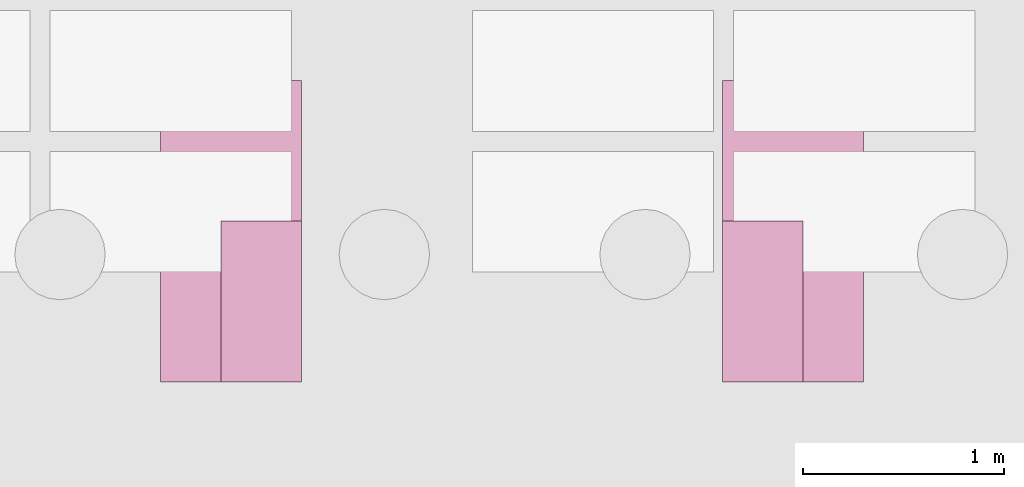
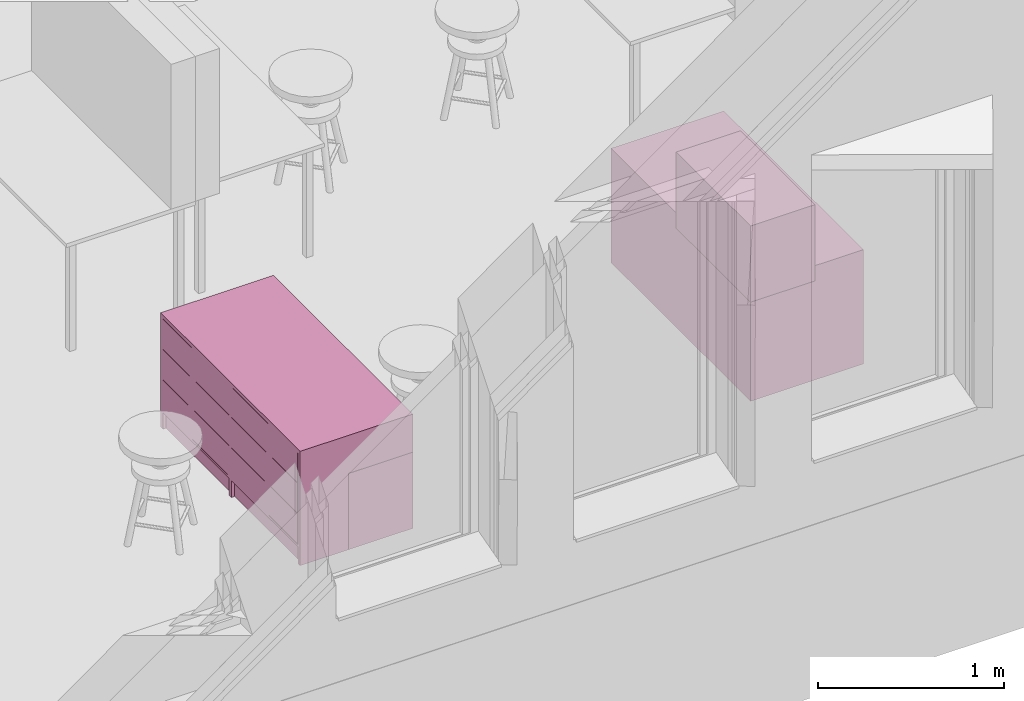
# One storey, part 281 of 301: 4 furnishings.
"""IFC2X3 building model written with IfcOpenShell, lengths in millimetres."""

from ifc_helpers import new_model, entity, si_unit, converted_unit, derived_unit, money_unit, direction, frame, origin_with_axes, place, context, subcontext, project, spatial, faceted_brep, type_object, element, save


model = new_model("IFC2X3")

# Units and contexts
model_context = context("Model", 3, precision=0.01, world=origin_with_axes(), true_north=direction((0.0, 1.0)))
body_context = subcontext(model_context, "Body", "Model", "MODEL_VIEW")
ifc_project = project(units=[si_unit("LENGTHUNIT", "METRE", prefix="MILLI"), si_unit("AREAUNIT", "SQUARE_METRE"), si_unit("VOLUMEUNIT", "CUBIC_METRE"), converted_unit("PLANEANGLEUNIT", "DEGREE", entity("IfcPlaneAngleMeasure", 0.0174532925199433), si_unit("PLANEANGLEUNIT", "RADIAN"), dimensions=[0, 0, 0, 0, 0, 0, 0]), money_unit("EUR"), converted_unit("TIMEUNIT", "Year", entity("IfcTimeMeasure", 31557600.0), si_unit("TIMEUNIT", "SECOND"), dimensions=[0, 0, 1, 0, 0, 0, 0]), si_unit("MASSUNIT", "GRAM", prefix="KILO"), si_unit("THERMODYNAMICTEMPERATUREUNIT", "DEGREE_CELSIUS"), si_unit("LUMINOUSINTENSITYUNIT", "LUMEN"), si_unit("ENERGYUNIT", "JOULE", prefix="MEGA"), derived_unit("THERMALCONDUCTANCEUNIT", [(si_unit("POWERUNIT", "WATT"), 1), (si_unit("LENGTHUNIT", "METRE"), -1), (si_unit("THERMODYNAMICTEMPERATUREUNIT", "KELVIN"), -1)]), derived_unit("SPECIFICHEATCAPACITYUNIT", [(si_unit("ENERGYUNIT", "JOULE"), 1), (si_unit("MASSUNIT", "GRAM", prefix="KILO"), -1), (si_unit("THERMODYNAMICTEMPERATUREUNIT", "KELVIN"), -1)]), derived_unit("MASSDENSITYUNIT", [(si_unit("MASSUNIT", "GRAM", prefix="KILO"), 1), (si_unit("VOLUMEUNIT", "CUBIC_METRE"), -1)])], contexts=[model_context])

# Site, building, storey
site_placement = place(None, frame((0.0, 0.0, 8650.0), z_axis=(0.0, 0.0, 1.0), x_axis=(1.0, 0.0, 0.0)))
site = spatial("IfcSite", under=ifc_project, at=site_placement, Name="43301:001:0844", CompositionType="ELEMENT")
building_placement = place(site_placement, origin_with_axes())
building = spatial("IfcBuilding", under=site, at=building_placement, Name="Kuressaare Ametikooli tuulikute mehaanikute õppekorpus", CompositionType="ELEMENT")
storey_placement = place(building_placement, origin_with_axes())
storey = spatial("IfcBuildingStorey", under=building, at=storey_placement, Name="1.korrus", CompositionType="ELEMENT", Elevation=0.0)

# Furnishings
furniture_type_1 = type_object("IfcFurnitureType", Name="Cube 27", AssemblyPlace="NOTDEFINED")
furnishing_1_placement = place(storey_placement, frame((107844.852344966, 10078.26065269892, 750.0), z_axis=(0.0, 0.0, 1.0), x_axis=(0.0, 1.0, 0.0)))
element("IfcFurnishingElement", 1, at=furnishing_1_placement, inside=storey, type_object=furniture_type_1, Name="x", context=body_context, shape_type="Brep", body=[
    faceted_brep([(800.0, 0.0, 0.0), (0.0, 0.0, 0.0), (0.0, 400.0, 0.0), (800.0, 400.0, 0.0), (800.0, 0.0, 500.0), (0.0, 0.0, 500.0), (0.0, 400.0, 500.0), (800.0, 400.0, 500.0)], [[[0, 1, 2, 3]], [[1, 0, 4, 5]], [[2, 1, 5, 6]], [[3, 2, 6, 7]], [[0, 3, 7, 4]], [[5, 4, 7, 6]]]),
])
furnishing_2_placement = place(storey_placement, frame((104949.8247123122, 10078.26065269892, 0.0), z_axis=(0.0, 0.0, 1.0), x_axis=(0.0, -1.0, 0.0)))
element("IfcFurnishingElement", 2, at=furnishing_2_placement, inside=storey, type_object=furniture_type_1, Name="x", context=body_context, shape_type="Brep", body=[
    faceted_brep([(-800.0, 0.0, 0.0), (-800.0, 400.0, 0.0), (0.0, 400.0, 0.0), (0.0, 0.0, 0.0), (-800.0, 0.0, 500.0), (-800.0, 400.0, 500.0), (0.0, 400.0, 500.0), (0.0, 0.0, 500.0)], [[[0, 1, 2, 3]], [[0, 4, 5, 1]], [[1, 5, 6, 2]], [[2, 6, 7, 3]], [[3, 7, 4, 0]], [[7, 6, 5, 4]]]),
])
furniture_type_2 = type_object("IfcFurnitureType", Name="Chest of Drawers 27", AssemblyPlace="NOTDEFINED")
furnishing_3_placement = place(storey_placement, frame((108144.8523449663, 10078.26065269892, 100.0), z_axis=(0.0, 0.0, 1.0), x_axis=(0.0, 1.0, 0.0)))
element("IfcFurnishingElement", 3, at=furnishing_3_placement, inside=storey, type_object=furniture_type_2, Name="SEH", context=body_context, shape_type="Brep", body=[
    faceted_brep([(25.0, 0.0, 0.0), (0.0, 0.0, 0.0), (0.0, 700.0, 0.0), (25.0, 700.0, 0.0), (25.0, 0.0, 725.0), (0.0, 0.0, 725.0), (0.0, 700.0, 725.0), (25.0, 700.0, 725.0)], [[[0, 1, 2, 3]], [[1, 0, 4, 5]], [[2, 1, 5, 6]], [[3, 2, 6, 7]], [[0, 3, 7, 4]], [[5, 4, 7, 6]]]),
    faceted_brep([(737.5, 20.0, 0.0), (25.0, 20.0, 0.0), (25.0, 45.0, 0.0), (737.5, 45.0, 0.0), (737.5, 20.0, 110.0), (25.0, 20.0, 110.0), (25.0, 45.0, 110.0), (737.5, 45.0, 110.0)], [[[0, 1, 2, 3]], [[1, 0, 4, 5]], [[2, 1, 5, 6]], [[3, 2, 6, 7]], [[0, 3, 7, 4]], [[5, 4, 7, 6]]]),
    faceted_brep([(737.5, 674.9999999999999, 0.0), (25.0, 674.9999999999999, 0.0), (25.0, 700.0, 0.0), (737.5, 700.0, 0.0), (737.5, 674.9999999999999, 110.0), (25.0, 674.9999999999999, 110.0), (25.0, 700.0, 110.0), (737.5, 700.0, 110.0)], [[[0, 1, 2, 3]], [[1, 0, 4, 5]], [[2, 1, 5, 6]], [[3, 2, 6, 7]], [[0, 3, 7, 4]], [[5, 4, 7, 6]]]),
    faceted_brep([(737.5, 0.0, 110.0), (25.0, 0.0, 110.0), (25.0, 700.0, 110.0), (737.5, 700.0, 110.0), (737.5, 0.0, 125.0), (25.0, 0.0, 125.0), (25.0, 700.0, 125.0), (737.5, 700.0, 125.0)], [[[0, 1, 2, 3]], [[1, 0, 4, 5]], [[2, 1, 5, 6]], [[3, 2, 6, 7]], [[0, 3, 7, 4]], [[5, 4, 7, 6]]]),
    faceted_brep([(737.5, 695.0, 125.0), (25.0, 695.0, 125.0), (25.0, 700.0, 125.0), (737.5, 700.0, 125.0), (737.5, 695.0, 725.0), (25.0, 695.0, 725.0), (25.0, 700.0, 725.0), (737.5, 700.0, 725.0)], [[[0, 1, 2, 3]], [[1, 0, 4, 5]], [[2, 1, 5, 6]], [[3, 2, 6, 7]], [[0, 3, 7, 4]], [[5, 4, 7, 6]]]),
    faceted_brep([(736.0, 20.0, 126.5), (26.5, 20.0, 126.5), (26.5, 693.5, 126.5), (736.0, 693.5, 126.5), (736.0, 20.0, 146.5), (26.5, 20.0, 146.5), (26.5, 693.5, 146.5), (736.0, 693.5, 146.5)], [[[0, 1, 2, 3]], [[1, 0, 4, 5]], [[2, 1, 5, 6]], [[3, 2, 6, 7]], [[0, 3, 7, 4]], [[5, 4, 7, 6]]]),
    faceted_brep([(46.5, 20.0, 146.5), (26.5, 20.0, 146.5), (26.5, 693.5, 146.5), (46.5, 693.5, 146.5), (46.5, 20.0, 323.5), (26.5, 20.0, 323.5), (26.5, 693.5, 323.5), (46.5, 693.5, 323.5)], [[[0, 1, 2, 3]], [[1, 0, 4, 5]], [[2, 1, 5, 6]], [[3, 2, 6, 7]], [[0, 3, 7, 4]], [[5, 4, 7, 6]]]),
    faceted_brep([(736.0, 20.0, 146.5), (716.0, 20.0, 146.5), (716.0, 693.5, 146.5), (736.0, 693.5, 146.5), (736.0, 20.0, 323.5), (716.0, 20.0, 323.5), (716.0, 693.5, 323.5), (736.0, 693.5, 323.5)], [[[0, 1, 2, 3]], [[1, 0, 4, 5]], [[2, 1, 5, 6]], [[3, 2, 6, 7]], [[0, 3, 7, 4]], [[5, 4, 7, 6]]]),
    faceted_brep([(716.0, 673.5, 146.5), (46.5, 673.5, 146.5), (46.5, 693.5, 146.5), (716.0, 693.5, 146.5), (716.0, 673.5, 323.5), (46.5, 673.5, 323.5), (46.5, 693.5, 323.5), (716.0, 693.5, 323.5)], [[[0, 1, 2, 3]], [[1, 0, 4, 5]], [[2, 1, 5, 6]], [[3, 2, 6, 7]], [[0, 3, 7, 4]], [[5, 4, 7, 6]]]),
    faceted_brep([(26.5, 20.0, 126.5), (736.0, 20.0, 126.5), (736.0, 0.0, 126.5), (26.5, 0.0, 126.5), (26.5, 20.00000000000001, 323.5), (736.0, 20.00000000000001, 323.5), (736.0, 0.0, 323.5), (26.5, 0.0, 323.5)], [[[0, 1, 2, 3]], [[0, 4, 5, 1]], [[1, 5, 6, 2]], [[3, 2, 6, 7]], [[4, 0, 3, 7]], [[5, 4, 7, 6]]]),
    faceted_brep([(736.0, 20.0, 326.4999999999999), (26.5, 20.0, 326.4999999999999), (26.5, 693.5, 326.4999999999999), (736.0, 693.5, 326.4999999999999), (736.0, 20.0, 346.5), (26.5, 20.0, 346.5), (26.5, 693.5, 346.5), (736.0, 693.5, 346.5)], [[[0, 1, 2, 3]], [[1, 0, 4, 5]], [[2, 1, 5, 6]], [[3, 2, 6, 7]], [[0, 3, 7, 4]], [[5, 4, 7, 6]]]),
    faceted_brep([(46.5, 20.0, 346.5), (26.5, 20.0, 346.5), (26.5, 693.5, 346.5), (46.5, 693.5, 346.5), (46.5, 20.0, 523.5), (26.5, 20.0, 523.5), (26.5, 693.5, 523.5), (46.5, 693.5, 523.5)], [[[0, 1, 2, 3]], [[1, 0, 4, 5]], [[2, 1, 5, 6]], [[3, 2, 6, 7]], [[0, 3, 7, 4]], [[5, 4, 7, 6]]]),
    faceted_brep([(736.0, 20.0, 346.5), (716.0, 20.0, 346.5), (716.0, 693.5, 346.5), (736.0, 693.5, 346.5), (736.0, 20.0, 523.5), (716.0, 20.0, 523.5), (716.0, 693.5, 523.5), (736.0, 693.5, 523.5)], [[[0, 1, 2, 3]], [[1, 0, 4, 5]], [[2, 1, 5, 6]], [[3, 2, 6, 7]], [[0, 3, 7, 4]], [[5, 4, 7, 6]]]),
    faceted_brep([(716.0, 673.5, 346.5), (46.5, 673.5, 346.5), (46.5, 693.5, 346.5), (716.0, 693.5, 346.5), (716.0, 673.5, 523.5), (46.5, 673.5, 523.5), (46.5, 693.5, 523.5), (716.0, 693.5, 523.5)], [[[0, 1, 2, 3]], [[1, 0, 4, 5]], [[2, 1, 5, 6]], [[3, 2, 6, 7]], [[0, 3, 7, 4]], [[5, 4, 7, 6]]]),
    faceted_brep([(26.5, 20.0, 326.5), (736.0, 20.0, 326.5), (736.0, 0.0, 326.5), (26.5, 0.0, 326.5), (26.5, 20.00000000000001, 523.5), (736.0, 20.00000000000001, 523.5), (736.0, 0.0, 523.5), (26.5, 0.0, 523.5)], [[[0, 1, 2, 3]], [[0, 4, 5, 1]], [[1, 5, 6, 2]], [[3, 2, 6, 7]], [[4, 0, 3, 7]], [[5, 4, 7, 6]]]),
    faceted_brep([(736.0, 20.0, 526.4999999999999), (26.5, 20.0, 526.4999999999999), (26.5, 693.5, 526.4999999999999), (736.0, 693.5, 526.4999999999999), (736.0, 20.0, 546.4999999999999), (26.5, 20.0, 546.4999999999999), (26.5, 693.5, 546.4999999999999), (736.0, 693.5, 546.4999999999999)], [[[0, 1, 2, 3]], [[1, 0, 4, 5]], [[2, 1, 5, 6]], [[3, 2, 6, 7]], [[0, 3, 7, 4]], [[5, 4, 7, 6]]]),
    faceted_brep([(46.5, 20.0, 546.4999999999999), (26.5, 20.0, 546.4999999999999), (26.5, 693.5, 546.4999999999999), (46.5, 693.5, 546.4999999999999), (46.5, 20.0, 723.4999999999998), (26.5, 20.0, 723.4999999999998), (26.5, 693.5, 723.4999999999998), (46.5, 693.5, 723.4999999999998)], [[[0, 1, 2, 3]], [[1, 0, 4, 5]], [[2, 1, 5, 6]], [[3, 2, 6, 7]], [[0, 3, 7, 4]], [[5, 4, 7, 6]]]),
    faceted_brep([(736.0, 20.0, 546.4999999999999), (716.0, 20.0, 546.4999999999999), (716.0, 693.5, 546.4999999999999), (736.0, 693.5, 546.4999999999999), (736.0, 20.0, 723.4999999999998), (716.0, 20.0, 723.4999999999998), (716.0, 693.5, 723.4999999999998), (736.0, 693.5, 723.4999999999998)], [[[0, 1, 2, 3]], [[1, 0, 4, 5]], [[2, 1, 5, 6]], [[3, 2, 6, 7]], [[0, 3, 7, 4]], [[5, 4, 7, 6]]]),
    faceted_brep([(716.0, 673.5, 546.5), (46.5, 673.5, 546.5), (46.5, 693.5, 546.5), (716.0, 693.5, 546.5), (716.0, 673.5, 723.5), (46.5, 673.5, 723.5), (46.5, 693.5, 723.5), (716.0, 693.5, 723.5)], [[[0, 1, 2, 3]], [[1, 0, 4, 5]], [[2, 1, 5, 6]], [[3, 2, 6, 7]], [[0, 3, 7, 4]], [[5, 4, 7, 6]]]),
    faceted_brep([(26.5, 20.0, 526.5), (736.0, 20.0, 526.5), (736.0, 0.0, 526.5), (26.5, 0.0, 526.5), (26.5, 20.00000000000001, 723.4999999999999), (736.0, 20.00000000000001, 723.4999999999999), (736.0, 0.0, 723.4999999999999), (26.5, 0.0, 723.4999999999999)], [[[0, 1, 2, 3]], [[0, 4, 5, 1]], [[1, 5, 6, 2]], [[3, 2, 6, 7]], [[4, 0, 3, 7]], [[5, 4, 7, 6]]]),
    faceted_brep([(1475.0, 0.0, 0.0), (1475.0, 700.0, 0.0), (1500.0, 700.0, 0.0), (1500.0, 0.0, 0.0), (1475.0, 0.0, 725.0), (1475.0, 700.0, 725.0), (1500.0, 700.0, 725.0), (1500.0, 0.0, 725.0)], [[[0, 1, 2, 3]], [[0, 4, 5, 1]], [[1, 5, 6, 2]], [[2, 6, 7, 3]], [[3, 7, 4, 0]], [[7, 6, 5, 4]]]),
    faceted_brep([(762.5000000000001, 20.0, 0.0), (762.5000000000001, 45.0, 0.0), (1475.0, 45.0, 0.0), (1475.0, 20.0, 0.0), (762.5000000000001, 20.0, 110.0), (762.5000000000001, 45.0, 110.0), (1475.0, 45.0, 110.0), (1475.0, 20.0, 110.0)], [[[0, 1, 2, 3]], [[0, 4, 5, 1]], [[1, 5, 6, 2]], [[2, 6, 7, 3]], [[3, 7, 4, 0]], [[7, 6, 5, 4]]]),
    faceted_brep([(762.5000000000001, 674.9999999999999, 0.0), (762.5000000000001, 700.0, 0.0), (1475.0, 700.0, 0.0), (1475.0, 674.9999999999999, 0.0), (762.5000000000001, 674.9999999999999, 110.0), (762.5000000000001, 700.0, 110.0), (1475.0, 700.0, 110.0), (1475.0, 674.9999999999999, 110.0)], [[[0, 1, 2, 3]], [[0, 4, 5, 1]], [[1, 5, 6, 2]], [[2, 6, 7, 3]], [[3, 7, 4, 0]], [[7, 6, 5, 4]]]),
    faceted_brep([(762.5000000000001, 0.0, 110.0), (762.5000000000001, 700.0, 110.0), (1475.0, 700.0, 110.0), (1475.0, 0.0, 110.0), (762.5000000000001, 0.0, 125.0), (762.5000000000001, 700.0, 125.0), (1475.0, 700.0, 125.0), (1475.0, 0.0, 125.0)], [[[0, 1, 2, 3]], [[0, 4, 5, 1]], [[1, 5, 6, 2]], [[2, 6, 7, 3]], [[3, 7, 4, 0]], [[7, 6, 5, 4]]]),
    faceted_brep([(762.5000000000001, 695.0, 125.0), (762.5000000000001, 700.0, 125.0), (1475.0, 700.0, 125.0), (1475.0, 695.0, 125.0), (762.5000000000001, 695.0, 725.0), (762.5000000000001, 700.0, 725.0), (1475.0, 700.0, 725.0), (1475.0, 695.0, 725.0)], [[[0, 1, 2, 3]], [[0, 4, 5, 1]], [[1, 5, 6, 2]], [[2, 6, 7, 3]], [[3, 7, 4, 0]], [[7, 6, 5, 4]]]),
    faceted_brep([(737.4999999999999, 0.0, 0.0), (737.4999999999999, 700.0, 0.0), (762.5, 700.0, 0.0), (762.5, 0.0, 0.0), (737.4999999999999, 0.0, 725.0), (737.4999999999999, 700.0, 725.0), (762.5, 700.0, 725.0), (762.5, 0.0, 725.0)], [[[0, 1, 2, 3]], [[0, 4, 5, 1]], [[1, 5, 6, 2]], [[2, 6, 7, 3]], [[3, 7, 4, 0]], [[7, 6, 5, 4]]]),
    faceted_brep([(764.0, 20.0, 126.5), (764.0, 693.5, 126.5), (1473.5, 693.5, 126.5), (1473.5, 20.0, 126.5), (764.0, 20.0, 146.5), (764.0, 693.5, 146.5), (1473.5, 693.5, 146.5), (1473.5, 20.0, 146.5)], [[[0, 1, 2, 3]], [[0, 4, 5, 1]], [[1, 5, 6, 2]], [[2, 6, 7, 3]], [[3, 7, 4, 0]], [[7, 6, 5, 4]]]),
    faceted_brep([(1453.5, 20.0, 146.5), (1453.5, 693.5, 146.5), (1473.5, 693.5, 146.5), (1473.5, 20.0, 146.5), (1453.5, 20.0, 323.5), (1453.5, 693.5, 323.5), (1473.5, 693.5, 323.5), (1473.5, 20.0, 323.5)], [[[0, 1, 2, 3]], [[0, 4, 5, 1]], [[1, 5, 6, 2]], [[2, 6, 7, 3]], [[3, 7, 4, 0]], [[7, 6, 5, 4]]]),
    faceted_brep([(764.0, 20.0, 146.5), (764.0, 693.5, 146.5), (784.0, 693.5, 146.5), (784.0, 20.0, 146.5), (764.0, 20.0, 323.5), (764.0, 693.5, 323.5), (784.0, 693.5, 323.5), (784.0, 20.0, 323.5)], [[[0, 1, 2, 3]], [[0, 4, 5, 1]], [[1, 5, 6, 2]], [[2, 6, 7, 3]], [[3, 7, 4, 0]], [[7, 6, 5, 4]]]),
    faceted_brep([(784.0, 673.5, 146.5), (784.0, 693.5, 146.5), (1453.5, 693.5, 146.5), (1453.5, 673.5, 146.5), (784.0, 673.5, 323.5), (784.0, 693.5, 323.5), (1453.5, 693.5, 323.5), (1453.5, 673.5, 323.5)], [[[0, 1, 2, 3]], [[0, 4, 5, 1]], [[1, 5, 6, 2]], [[2, 6, 7, 3]], [[3, 7, 4, 0]], [[7, 6, 5, 4]]]),
    faceted_brep([(1473.5, 20.0, 126.5), (1473.5, 0.0, 126.5), (764.0, 0.0, 126.5), (764.0, 20.0, 126.5), (1473.5, 20.00000000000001, 323.5), (1473.5, 0.0, 323.5), (764.0, 0.0, 323.5), (764.0, 20.00000000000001, 323.5)], [[[0, 1, 2, 3]], [[4, 5, 1, 0]], [[1, 5, 6, 2]], [[3, 2, 6, 7]], [[0, 3, 7, 4]], [[7, 6, 5, 4]]]),
    faceted_brep([(764.0, 20.0, 326.4999999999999), (764.0, 693.5, 326.4999999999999), (1473.5, 693.5, 326.4999999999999), (1473.5, 20.0, 326.4999999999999), (764.0, 20.0, 346.5), (764.0, 693.5, 346.5), (1473.5, 693.5, 346.5), (1473.5, 20.0, 346.5)], [[[0, 1, 2, 3]], [[0, 4, 5, 1]], [[1, 5, 6, 2]], [[2, 6, 7, 3]], [[3, 7, 4, 0]], [[7, 6, 5, 4]]]),
    faceted_brep([(1453.5, 20.0, 346.5), (1453.5, 693.5, 346.5), (1473.5, 693.5, 346.5), (1473.5, 20.0, 346.5), (1453.5, 20.0, 523.5), (1453.5, 693.5, 523.5), (1473.5, 693.5, 523.5), (1473.5, 20.0, 523.5)], [[[0, 1, 2, 3]], [[0, 4, 5, 1]], [[1, 5, 6, 2]], [[2, 6, 7, 3]], [[3, 7, 4, 0]], [[7, 6, 5, 4]]]),
    faceted_brep([(764.0, 20.0, 346.5), (764.0, 693.5, 346.5), (784.0, 693.5, 346.5), (784.0, 20.0, 346.5), (764.0, 20.0, 523.5), (764.0, 693.5, 523.5), (784.0, 693.5, 523.5), (784.0, 20.0, 523.5)], [[[0, 1, 2, 3]], [[0, 4, 5, 1]], [[1, 5, 6, 2]], [[2, 6, 7, 3]], [[3, 7, 4, 0]], [[7, 6, 5, 4]]]),
    faceted_brep([(784.0, 673.5, 346.5), (784.0, 693.5, 346.5), (1453.5, 693.5, 346.5), (1453.5, 673.5, 346.5), (784.0, 673.5, 523.5), (784.0, 693.5, 523.5), (1453.5, 693.5, 523.5), (1453.5, 673.5, 523.5)], [[[0, 1, 2, 3]], [[0, 4, 5, 1]], [[1, 5, 6, 2]], [[2, 6, 7, 3]], [[3, 7, 4, 0]], [[7, 6, 5, 4]]]),
    faceted_brep([(1473.5, 20.0, 326.5), (1473.5, 0.0, 326.5), (764.0, 0.0, 326.5), (764.0, 20.0, 326.5), (1473.5, 20.00000000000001, 523.5), (1473.5, 0.0, 523.5), (764.0, 0.0, 523.5), (764.0, 20.00000000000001, 523.5)], [[[0, 1, 2, 3]], [[4, 5, 1, 0]], [[1, 5, 6, 2]], [[3, 2, 6, 7]], [[0, 3, 7, 4]], [[7, 6, 5, 4]]]),
    faceted_brep([(764.0, 20.0, 526.4999999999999), (764.0, 693.5, 526.4999999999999), (1473.5, 693.5, 526.4999999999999), (1473.5, 20.0, 526.4999999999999), (764.0, 20.0, 546.4999999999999), (764.0, 693.5, 546.4999999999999), (1473.5, 693.5, 546.4999999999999), (1473.5, 20.0, 546.4999999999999)], [[[0, 1, 2, 3]], [[0, 4, 5, 1]], [[1, 5, 6, 2]], [[2, 6, 7, 3]], [[3, 7, 4, 0]], [[7, 6, 5, 4]]]),
    faceted_brep([(1453.5, 20.0, 546.4999999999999), (1453.5, 693.5, 546.4999999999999), (1473.5, 693.5, 546.4999999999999), (1473.5, 20.0, 546.4999999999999), (1453.5, 20.0, 723.4999999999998), (1453.5, 693.5, 723.4999999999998), (1473.5, 693.5, 723.4999999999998), (1473.5, 20.0, 723.4999999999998)], [[[0, 1, 2, 3]], [[0, 4, 5, 1]], [[1, 5, 6, 2]], [[2, 6, 7, 3]], [[3, 7, 4, 0]], [[7, 6, 5, 4]]]),
    faceted_brep([(764.0, 20.0, 546.4999999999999), (764.0, 693.5, 546.4999999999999), (784.0, 693.5, 546.4999999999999), (784.0, 20.0, 546.4999999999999), (764.0, 20.0, 723.4999999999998), (764.0, 693.5, 723.4999999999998), (784.0, 693.5, 723.4999999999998), (784.0, 20.0, 723.4999999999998)], [[[0, 1, 2, 3]], [[0, 4, 5, 1]], [[1, 5, 6, 2]], [[2, 6, 7, 3]], [[3, 7, 4, 0]], [[7, 6, 5, 4]]]),
    faceted_brep([(784.0, 673.5, 546.5), (784.0, 693.5, 546.5), (1453.5, 693.5, 546.5), (1453.5, 673.5, 546.5), (784.0, 673.5, 723.5), (784.0, 693.5, 723.5), (1453.5, 693.5, 723.5), (1453.5, 673.5, 723.5)], [[[0, 1, 2, 3]], [[0, 4, 5, 1]], [[1, 5, 6, 2]], [[2, 6, 7, 3]], [[3, 7, 4, 0]], [[7, 6, 5, 4]]]),
    faceted_brep([(1473.5, 20.0, 526.5), (1473.5, 0.0, 526.5), (764.0, 0.0, 526.5), (764.0, 20.0, 526.5), (1473.5, 20.00000000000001, 723.4999999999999), (1473.5, 0.0, 723.4999999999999), (764.0, 0.0, 723.4999999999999), (764.0, 20.00000000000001, 723.4999999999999)], [[[0, 1, 2, 3]], [[4, 5, 1, 0]], [[1, 5, 6, 2]], [[3, 2, 6, 7]], [[0, 3, 7, 4]], [[7, 6, 5, 4]]]),
    faceted_brep([(1500.0, 0.0, 725.0), (0.0, 0.0, 725.0), (0.0, 700.0, 725.0), (1500.0, 700.0, 725.0), (1500.0, 0.0, 750.0), (0.0, 0.0, 750.0), (0.0, 700.0, 750.0), (1500.0, 700.0, 750.0)], [[[0, 1, 2, 3]], [[1, 0, 4, 5]], [[2, 1, 5, 6]], [[3, 2, 6, 7]], [[0, 3, 7, 4]], [[5, 4, 7, 6]]]),
])
furnishing_4_placement = place(storey_placement, frame((104649.8247123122, 10078.26065269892, 0.0), z_axis=(0.0, 0.0, 1.0), x_axis=(0.0, -1.0, 0.0)))
element("IfcFurnishingElement", 4, at=furnishing_4_placement, inside=storey, type_object=furniture_type_2, Name="SEH", context=body_context, shape_type="Brep", body=[
    faceted_brep([(-25.0, 0.0, 0.0), (-25.0, 700.0, 0.0), (0.0, 700.0, 0.0), (0.0, 0.0, 0.0), (-25.0, 0.0, 725.0), (-25.0, 700.0, 725.0), (0.0, 700.0, 725.0), (0.0, 0.0, 725.0)], [[[0, 1, 2, 3]], [[0, 4, 5, 1]], [[1, 5, 6, 2]], [[2, 6, 7, 3]], [[3, 7, 4, 0]], [[7, 6, 5, 4]]]),
    faceted_brep([(-737.5, 20.0, 0.0), (-737.5, 45.0, 0.0), (-25.0, 45.0, 0.0), (-25.0, 20.0, 0.0), (-737.5, 20.0, 110.0), (-737.5, 45.0, 110.0), (-25.0, 45.0, 110.0), (-25.0, 20.0, 110.0)], [[[0, 1, 2, 3]], [[0, 4, 5, 1]], [[1, 5, 6, 2]], [[2, 6, 7, 3]], [[3, 7, 4, 0]], [[7, 6, 5, 4]]]),
    faceted_brep([(-737.5, 674.9999999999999, 0.0), (-737.5, 700.0, 0.0), (-25.0, 700.0, 0.0), (-25.0, 674.9999999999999, 0.0), (-737.5, 674.9999999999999, 110.0), (-737.5, 700.0, 110.0), (-25.0, 700.0, 110.0), (-25.0, 674.9999999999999, 110.0)], [[[0, 1, 2, 3]], [[0, 4, 5, 1]], [[1, 5, 6, 2]], [[2, 6, 7, 3]], [[3, 7, 4, 0]], [[7, 6, 5, 4]]]),
    faceted_brep([(-737.5, 0.0, 110.0), (-737.5, 700.0, 110.0), (-25.0, 700.0, 110.0), (-25.0, 0.0, 110.0), (-737.5, 0.0, 125.0), (-737.5, 700.0, 125.0), (-25.0, 700.0, 125.0), (-25.0, 0.0, 125.0)], [[[0, 1, 2, 3]], [[0, 4, 5, 1]], [[1, 5, 6, 2]], [[2, 6, 7, 3]], [[3, 7, 4, 0]], [[7, 6, 5, 4]]]),
    faceted_brep([(-737.5, 695.0, 125.0), (-737.5, 700.0, 125.0), (-25.0, 700.0, 125.0), (-25.0, 695.0, 125.0), (-737.5, 695.0, 725.0), (-737.5, 700.0, 725.0), (-25.0, 700.0, 725.0), (-25.0, 695.0, 725.0)], [[[0, 1, 2, 3]], [[0, 4, 5, 1]], [[1, 5, 6, 2]], [[2, 6, 7, 3]], [[3, 7, 4, 0]], [[7, 6, 5, 4]]]),
    faceted_brep([(-736.0, 20.0, 126.5), (-736.0, 693.5, 126.5), (-26.5, 693.5, 126.5), (-26.5, 20.0, 126.5), (-736.0, 20.0, 146.5), (-736.0, 693.5, 146.5), (-26.5, 693.5, 146.5), (-26.5, 20.0, 146.5)], [[[0, 1, 2, 3]], [[0, 4, 5, 1]], [[1, 5, 6, 2]], [[2, 6, 7, 3]], [[3, 7, 4, 0]], [[7, 6, 5, 4]]]),
    faceted_brep([(-46.5, 20.0, 146.5), (-46.5, 693.5, 146.5), (-26.5, 693.5, 146.5), (-26.5, 20.0, 146.5), (-46.5, 20.0, 323.5), (-46.5, 693.5, 323.5), (-26.5, 693.5, 323.5), (-26.5, 20.0, 323.5)], [[[0, 1, 2, 3]], [[0, 4, 5, 1]], [[1, 5, 6, 2]], [[2, 6, 7, 3]], [[3, 7, 4, 0]], [[7, 6, 5, 4]]]),
    faceted_brep([(-736.0, 20.0, 146.5), (-736.0, 693.5, 146.5), (-716.0, 693.5, 146.5), (-716.0, 20.0, 146.5), (-736.0, 20.0, 323.5), (-736.0, 693.5, 323.5), (-716.0, 693.5, 323.5), (-716.0, 20.0, 323.5)], [[[0, 1, 2, 3]], [[0, 4, 5, 1]], [[1, 5, 6, 2]], [[2, 6, 7, 3]], [[3, 7, 4, 0]], [[7, 6, 5, 4]]]),
    faceted_brep([(-716.0, 673.5, 146.5), (-716.0, 693.5, 146.5), (-46.5, 693.5, 146.5), (-46.5, 673.5, 146.5), (-716.0, 673.5, 323.5), (-716.0, 693.5, 323.5), (-46.5, 693.5, 323.5), (-46.5, 673.5, 323.5)], [[[0, 1, 2, 3]], [[0, 4, 5, 1]], [[1, 5, 6, 2]], [[2, 6, 7, 3]], [[3, 7, 4, 0]], [[7, 6, 5, 4]]]),
    faceted_brep([(-26.5, 20.0, 126.5), (-26.5, 0.0, 126.5), (-736.0, 0.0, 126.5), (-736.0, 20.0, 126.5), (-26.5, 20.00000000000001, 323.5), (-26.5, 0.0, 323.5), (-736.0, 0.0, 323.5), (-736.0, 20.00000000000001, 323.5)], [[[0, 1, 2, 3]], [[4, 5, 1, 0]], [[1, 5, 6, 2]], [[3, 2, 6, 7]], [[0, 3, 7, 4]], [[7, 6, 5, 4]]]),
    faceted_brep([(-736.0, 20.0, 326.4999999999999), (-736.0, 693.5, 326.4999999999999), (-26.5, 693.5, 326.4999999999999), (-26.5, 20.0, 326.4999999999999), (-736.0, 20.0, 346.5), (-736.0, 693.5, 346.5), (-26.5, 693.5, 346.5), (-26.5, 20.0, 346.5)], [[[0, 1, 2, 3]], [[0, 4, 5, 1]], [[1, 5, 6, 2]], [[2, 6, 7, 3]], [[3, 7, 4, 0]], [[7, 6, 5, 4]]]),
    faceted_brep([(-46.5, 20.0, 346.5), (-46.5, 693.5, 346.5), (-26.5, 693.5, 346.5), (-26.5, 20.0, 346.5), (-46.5, 20.0, 523.5), (-46.5, 693.5, 523.5), (-26.5, 693.5, 523.5), (-26.5, 20.0, 523.5)], [[[0, 1, 2, 3]], [[0, 4, 5, 1]], [[1, 5, 6, 2]], [[2, 6, 7, 3]], [[3, 7, 4, 0]], [[7, 6, 5, 4]]]),
    faceted_brep([(-736.0, 20.0, 346.5), (-736.0, 693.5, 346.5), (-716.0, 693.5, 346.5), (-716.0, 20.0, 346.5), (-736.0, 20.0, 523.5), (-736.0, 693.5, 523.5), (-716.0, 693.5, 523.5), (-716.0, 20.0, 523.5)], [[[0, 1, 2, 3]], [[0, 4, 5, 1]], [[1, 5, 6, 2]], [[2, 6, 7, 3]], [[3, 7, 4, 0]], [[7, 6, 5, 4]]]),
    faceted_brep([(-716.0, 673.5, 346.5), (-716.0, 693.5, 346.5), (-46.5, 693.5, 346.5), (-46.5, 673.5, 346.5), (-716.0, 673.5, 523.5), (-716.0, 693.5, 523.5), (-46.5, 693.5, 523.5), (-46.5, 673.5, 523.5)], [[[0, 1, 2, 3]], [[0, 4, 5, 1]], [[1, 5, 6, 2]], [[2, 6, 7, 3]], [[3, 7, 4, 0]], [[7, 6, 5, 4]]]),
    faceted_brep([(-26.5, 20.0, 326.5), (-26.5, 0.0, 326.5), (-736.0, 0.0, 326.5), (-736.0, 20.0, 326.5), (-26.5, 20.00000000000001, 523.5), (-26.5, 0.0, 523.5), (-736.0, 0.0, 523.5), (-736.0, 20.00000000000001, 523.5)], [[[0, 1, 2, 3]], [[4, 5, 1, 0]], [[1, 5, 6, 2]], [[3, 2, 6, 7]], [[0, 3, 7, 4]], [[7, 6, 5, 4]]]),
    faceted_brep([(-736.0, 20.0, 526.4999999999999), (-736.0, 693.5, 526.4999999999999), (-26.5, 693.5, 526.4999999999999), (-26.5, 20.0, 526.4999999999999), (-736.0, 20.0, 546.4999999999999), (-736.0, 693.5, 546.4999999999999), (-26.5, 693.5, 546.4999999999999), (-26.5, 20.0, 546.4999999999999)], [[[0, 1, 2, 3]], [[0, 4, 5, 1]], [[1, 5, 6, 2]], [[2, 6, 7, 3]], [[3, 7, 4, 0]], [[7, 6, 5, 4]]]),
    faceted_brep([(-46.5, 20.0, 546.4999999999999), (-46.5, 693.5, 546.4999999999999), (-26.5, 693.5, 546.4999999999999), (-26.5, 20.0, 546.4999999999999), (-46.5, 20.0, 723.4999999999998), (-46.5, 693.5, 723.4999999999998), (-26.5, 693.5, 723.4999999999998), (-26.5, 20.0, 723.4999999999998)], [[[0, 1, 2, 3]], [[0, 4, 5, 1]], [[1, 5, 6, 2]], [[2, 6, 7, 3]], [[3, 7, 4, 0]], [[7, 6, 5, 4]]]),
    faceted_brep([(-736.0, 20.0, 546.4999999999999), (-736.0, 693.5, 546.4999999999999), (-716.0, 693.5, 546.4999999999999), (-716.0, 20.0, 546.4999999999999), (-736.0, 20.0, 723.4999999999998), (-736.0, 693.5, 723.4999999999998), (-716.0, 693.5, 723.4999999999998), (-716.0, 20.0, 723.4999999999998)], [[[0, 1, 2, 3]], [[0, 4, 5, 1]], [[1, 5, 6, 2]], [[2, 6, 7, 3]], [[3, 7, 4, 0]], [[7, 6, 5, 4]]]),
    faceted_brep([(-716.0, 673.5, 546.5), (-716.0, 693.5, 546.5), (-46.5, 693.5, 546.5), (-46.5, 673.5, 546.5), (-716.0, 673.5, 723.5), (-716.0, 693.5, 723.5), (-46.5, 693.5, 723.5), (-46.5, 673.5, 723.5)], [[[0, 1, 2, 3]], [[0, 4, 5, 1]], [[1, 5, 6, 2]], [[2, 6, 7, 3]], [[3, 7, 4, 0]], [[7, 6, 5, 4]]]),
    faceted_brep([(-26.5, 20.0, 526.5), (-26.5, 0.0, 526.5), (-736.0, 0.0, 526.5), (-736.0, 20.0, 526.5), (-26.5, 20.00000000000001, 723.4999999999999), (-26.5, 0.0, 723.4999999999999), (-736.0, 0.0, 723.4999999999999), (-736.0, 20.00000000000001, 723.4999999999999)], [[[0, 1, 2, 3]], [[4, 5, 1, 0]], [[1, 5, 6, 2]], [[3, 2, 6, 7]], [[0, 3, 7, 4]], [[7, 6, 5, 4]]]),
    faceted_brep([(-1475.0, 0.0, 0.0), (-1500.0, 0.0, 0.0), (-1500.0, 700.0, 0.0), (-1475.0, 700.0, 0.0), (-1475.0, 0.0, 725.0), (-1500.0, 0.0, 725.0), (-1500.0, 700.0, 725.0), (-1475.0, 700.0, 725.0)], [[[0, 1, 2, 3]], [[1, 0, 4, 5]], [[2, 1, 5, 6]], [[3, 2, 6, 7]], [[0, 3, 7, 4]], [[5, 4, 7, 6]]]),
    faceted_brep([(-762.5000000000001, 20.0, 0.0), (-1475.0, 20.0, 0.0), (-1475.0, 45.0, 0.0), (-762.5000000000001, 45.0, 0.0), (-762.5000000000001, 20.0, 110.0), (-1475.0, 20.0, 110.0), (-1475.0, 45.0, 110.0), (-762.5000000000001, 45.0, 110.0)], [[[0, 1, 2, 3]], [[1, 0, 4, 5]], [[2, 1, 5, 6]], [[3, 2, 6, 7]], [[0, 3, 7, 4]], [[5, 4, 7, 6]]]),
    faceted_brep([(-762.5000000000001, 674.9999999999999, 0.0), (-1475.0, 674.9999999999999, 0.0), (-1475.0, 700.0, 0.0), (-762.5000000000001, 700.0, 0.0), (-762.5000000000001, 674.9999999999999, 110.0), (-1475.0, 674.9999999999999, 110.0), (-1475.0, 700.0, 110.0), (-762.5000000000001, 700.0, 110.0)], [[[0, 1, 2, 3]], [[1, 0, 4, 5]], [[2, 1, 5, 6]], [[3, 2, 6, 7]], [[0, 3, 7, 4]], [[5, 4, 7, 6]]]),
    faceted_brep([(-762.5000000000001, 0.0, 110.0), (-1475.0, 0.0, 110.0), (-1475.0, 700.0, 110.0), (-762.5000000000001, 700.0, 110.0), (-762.5000000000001, 0.0, 125.0), (-1475.0, 0.0, 125.0), (-1475.0, 700.0, 125.0), (-762.5000000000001, 700.0, 125.0)], [[[0, 1, 2, 3]], [[1, 0, 4, 5]], [[2, 1, 5, 6]], [[3, 2, 6, 7]], [[0, 3, 7, 4]], [[5, 4, 7, 6]]]),
    faceted_brep([(-762.5000000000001, 695.0, 125.0), (-1475.0, 695.0, 125.0), (-1475.0, 700.0, 125.0), (-762.5000000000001, 700.0, 125.0), (-762.5000000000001, 695.0, 725.0), (-1475.0, 695.0, 725.0), (-1475.0, 700.0, 725.0), (-762.5000000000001, 700.0, 725.0)], [[[0, 1, 2, 3]], [[1, 0, 4, 5]], [[2, 1, 5, 6]], [[3, 2, 6, 7]], [[0, 3, 7, 4]], [[5, 4, 7, 6]]]),
    faceted_brep([(-737.4999999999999, 0.0, 0.0), (-762.5, 0.0, 0.0), (-762.5, 700.0, 0.0), (-737.4999999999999, 700.0, 0.0), (-737.4999999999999, 0.0, 725.0), (-762.5, 0.0, 725.0), (-762.5, 700.0, 725.0), (-737.4999999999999, 700.0, 725.0)], [[[0, 1, 2, 3]], [[1, 0, 4, 5]], [[2, 1, 5, 6]], [[3, 2, 6, 7]], [[0, 3, 7, 4]], [[5, 4, 7, 6]]]),
    faceted_brep([(-764.0, 20.0, 126.5), (-1473.5, 20.0, 126.5), (-1473.5, 693.5, 126.5), (-764.0, 693.5, 126.5), (-764.0, 20.0, 146.5), (-1473.5, 20.0, 146.5), (-1473.5, 693.5, 146.5), (-764.0, 693.5, 146.5)], [[[0, 1, 2, 3]], [[1, 0, 4, 5]], [[2, 1, 5, 6]], [[3, 2, 6, 7]], [[0, 3, 7, 4]], [[5, 4, 7, 6]]]),
    faceted_brep([(-1453.5, 20.0, 146.5), (-1473.5, 20.0, 146.5), (-1473.5, 693.5, 146.5), (-1453.5, 693.5, 146.5), (-1453.5, 20.0, 323.5), (-1473.5, 20.0, 323.5), (-1473.5, 693.5, 323.5), (-1453.5, 693.5, 323.5)], [[[0, 1, 2, 3]], [[1, 0, 4, 5]], [[2, 1, 5, 6]], [[3, 2, 6, 7]], [[0, 3, 7, 4]], [[5, 4, 7, 6]]]),
    faceted_brep([(-764.0, 20.0, 146.5), (-784.0, 20.0, 146.5), (-784.0, 693.5, 146.5), (-764.0, 693.5, 146.5), (-764.0, 20.0, 323.5), (-784.0, 20.0, 323.5), (-784.0, 693.5, 323.5), (-764.0, 693.5, 323.5)], [[[0, 1, 2, 3]], [[1, 0, 4, 5]], [[2, 1, 5, 6]], [[3, 2, 6, 7]], [[0, 3, 7, 4]], [[5, 4, 7, 6]]]),
    faceted_brep([(-784.0, 673.5, 146.5), (-1453.5, 673.5, 146.5), (-1453.5, 693.5, 146.5), (-784.0, 693.5, 146.5), (-784.0, 673.5, 323.5), (-1453.5, 673.5, 323.5), (-1453.5, 693.5, 323.5), (-784.0, 693.5, 323.5)], [[[0, 1, 2, 3]], [[1, 0, 4, 5]], [[2, 1, 5, 6]], [[3, 2, 6, 7]], [[0, 3, 7, 4]], [[5, 4, 7, 6]]]),
    faceted_brep([(-1473.5, 20.0, 126.5), (-764.0, 20.0, 126.5), (-764.0, 0.0, 126.5), (-1473.5, 0.0, 126.5), (-1473.5, 20.00000000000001, 323.5), (-764.0, 20.00000000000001, 323.5), (-764.0, 0.0, 323.5), (-1473.5, 0.0, 323.5)], [[[0, 1, 2, 3]], [[0, 4, 5, 1]], [[1, 5, 6, 2]], [[3, 2, 6, 7]], [[4, 0, 3, 7]], [[5, 4, 7, 6]]]),
    faceted_brep([(-764.0, 20.0, 326.4999999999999), (-1473.5, 20.0, 326.4999999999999), (-1473.5, 693.5, 326.4999999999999), (-764.0, 693.5, 326.4999999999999), (-764.0, 20.0, 346.5), (-1473.5, 20.0, 346.5), (-1473.5, 693.5, 346.5), (-764.0, 693.5, 346.5)], [[[0, 1, 2, 3]], [[1, 0, 4, 5]], [[2, 1, 5, 6]], [[3, 2, 6, 7]], [[0, 3, 7, 4]], [[5, 4, 7, 6]]]),
    faceted_brep([(-1453.5, 20.0, 346.5), (-1473.5, 20.0, 346.5), (-1473.5, 693.5, 346.5), (-1453.5, 693.5, 346.5), (-1453.5, 20.0, 523.5), (-1473.5, 20.0, 523.5), (-1473.5, 693.5, 523.5), (-1453.5, 693.5, 523.5)], [[[0, 1, 2, 3]], [[1, 0, 4, 5]], [[2, 1, 5, 6]], [[3, 2, 6, 7]], [[0, 3, 7, 4]], [[5, 4, 7, 6]]]),
    faceted_brep([(-764.0, 20.0, 346.5), (-784.0, 20.0, 346.5), (-784.0, 693.5, 346.5), (-764.0, 693.5, 346.5), (-764.0, 20.0, 523.5), (-784.0, 20.0, 523.5), (-784.0, 693.5, 523.5), (-764.0, 693.5, 523.5)], [[[0, 1, 2, 3]], [[1, 0, 4, 5]], [[2, 1, 5, 6]], [[3, 2, 6, 7]], [[0, 3, 7, 4]], [[5, 4, 7, 6]]]),
    faceted_brep([(-784.0, 673.5, 346.5), (-1453.5, 673.5, 346.5), (-1453.5, 693.5, 346.5), (-784.0, 693.5, 346.5), (-784.0, 673.5, 523.5), (-1453.5, 673.5, 523.5), (-1453.5, 693.5, 523.5), (-784.0, 693.5, 523.5)], [[[0, 1, 2, 3]], [[1, 0, 4, 5]], [[2, 1, 5, 6]], [[3, 2, 6, 7]], [[0, 3, 7, 4]], [[5, 4, 7, 6]]]),
    faceted_brep([(-1473.5, 20.0, 326.5), (-764.0, 20.0, 326.5), (-764.0, 0.0, 326.5), (-1473.5, 0.0, 326.5), (-1473.5, 20.00000000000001, 523.5), (-764.0, 20.00000000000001, 523.5), (-764.0, 0.0, 523.5), (-1473.5, 0.0, 523.5)], [[[0, 1, 2, 3]], [[0, 4, 5, 1]], [[1, 5, 6, 2]], [[3, 2, 6, 7]], [[4, 0, 3, 7]], [[5, 4, 7, 6]]]),
    faceted_brep([(-764.0, 20.0, 526.4999999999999), (-1473.5, 20.0, 526.4999999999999), (-1473.5, 693.5, 526.4999999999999), (-764.0, 693.5, 526.4999999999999), (-764.0, 20.0, 546.4999999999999), (-1473.5, 20.0, 546.4999999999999), (-1473.5, 693.5, 546.4999999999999), (-764.0, 693.5, 546.4999999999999)], [[[0, 1, 2, 3]], [[1, 0, 4, 5]], [[2, 1, 5, 6]], [[3, 2, 6, 7]], [[0, 3, 7, 4]], [[5, 4, 7, 6]]]),
    faceted_brep([(-1453.5, 20.0, 546.4999999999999), (-1473.5, 20.0, 546.4999999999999), (-1473.5, 693.5, 546.4999999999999), (-1453.5, 693.5, 546.4999999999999), (-1453.5, 20.0, 723.4999999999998), (-1473.5, 20.0, 723.4999999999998), (-1473.5, 693.5, 723.4999999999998), (-1453.5, 693.5, 723.4999999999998)], [[[0, 1, 2, 3]], [[1, 0, 4, 5]], [[2, 1, 5, 6]], [[3, 2, 6, 7]], [[0, 3, 7, 4]], [[5, 4, 7, 6]]]),
    faceted_brep([(-764.0, 20.0, 546.4999999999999), (-784.0, 20.0, 546.4999999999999), (-784.0, 693.5, 546.4999999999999), (-764.0, 693.5, 546.4999999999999), (-764.0, 20.0, 723.4999999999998), (-784.0, 20.0, 723.4999999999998), (-784.0, 693.5, 723.4999999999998), (-764.0, 693.5, 723.4999999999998)], [[[0, 1, 2, 3]], [[1, 0, 4, 5]], [[2, 1, 5, 6]], [[3, 2, 6, 7]], [[0, 3, 7, 4]], [[5, 4, 7, 6]]]),
    faceted_brep([(-784.0, 673.5, 546.5), (-1453.5, 673.5, 546.5), (-1453.5, 693.5, 546.5), (-784.0, 693.5, 546.5), (-784.0, 673.5, 723.5), (-1453.5, 673.5, 723.5), (-1453.5, 693.5, 723.5), (-784.0, 693.5, 723.5)], [[[0, 1, 2, 3]], [[1, 0, 4, 5]], [[2, 1, 5, 6]], [[3, 2, 6, 7]], [[0, 3, 7, 4]], [[5, 4, 7, 6]]]),
    faceted_brep([(-1473.5, 20.0, 526.5), (-764.0, 20.0, 526.5), (-764.0, 0.0, 526.5), (-1473.5, 0.0, 526.5), (-1473.5, 20.00000000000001, 723.4999999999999), (-764.0, 20.00000000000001, 723.4999999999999), (-764.0, 0.0, 723.4999999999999), (-1473.5, 0.0, 723.4999999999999)], [[[0, 1, 2, 3]], [[0, 4, 5, 1]], [[1, 5, 6, 2]], [[3, 2, 6, 7]], [[4, 0, 3, 7]], [[5, 4, 7, 6]]]),
    faceted_brep([(-1500.0, 0.0, 725.0), (-1500.0, 700.0, 725.0), (0.0, 700.0, 725.0), (0.0, 0.0, 725.0), (-1500.0, 0.0, 750.0), (-1500.0, 700.0, 750.0), (0.0, 700.0, 750.0), (0.0, 0.0, 750.0)], [[[0, 1, 2, 3]], [[0, 4, 5, 1]], [[1, 5, 6, 2]], [[2, 6, 7, 3]], [[3, 7, 4, 0]], [[7, 6, 5, 4]]]),
])

save(model, "model.ifc")
